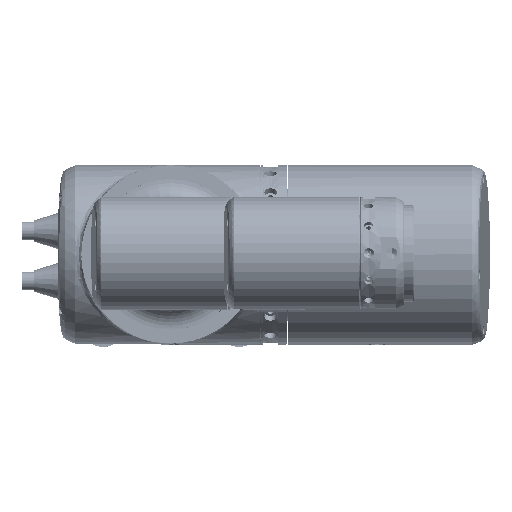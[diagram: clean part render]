
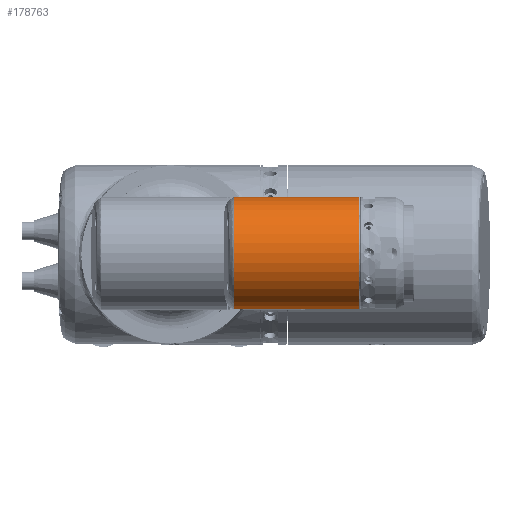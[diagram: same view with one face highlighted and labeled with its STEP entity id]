
A CAD part, top view. The second image highlights one B-rep face of the part: STEP entity #178763.
In plain terms, the highlighted cylindrical face has radius 36.5 mm (diameter 73 mm), a partial arc.
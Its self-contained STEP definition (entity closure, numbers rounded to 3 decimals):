
#23209 = CIRCLE ( 'NONE', #81764, 36.5 ) ;
#31151 = VECTOR ( 'NONE', #36614, 1000. ) ;
#36614 = DIRECTION ( 'NONE',  ( 0., 0., 1. ) ) ;
#42175 = CARTESIAN_POINT ( 'NONE',  ( -36.5, 0., 0. ) ) ;
#42738 = DIRECTION ( 'NONE',  ( 0., 0., 1. ) ) ;
#44493 = LINE ( 'NONE', #46733, #271030 ) ;
#46733 = CARTESIAN_POINT ( 'NONE',  ( 36.5, 0., -45. ) ) ;
#48553 = DIRECTION ( 'NONE',  ( 0., 0., 1. ) ) ;
#60079 = CIRCLE ( 'NONE', #432102, 36.5 ) ;
#61433 = DIRECTION ( 'NONE',  ( 1., 0., 0. ) ) ;
#63408 = ORIENTED_EDGE ( 'NONE', *, *, #363738, .F. ) ;
#74589 = CARTESIAN_POINT ( 'NONE',  ( 36.5, 0., 36.5 ) ) ;
#81764 = AXIS2_PLACEMENT_3D ( 'NONE', #186829, #424587, #248592 ) ;
#97615 = LINE ( 'NONE', #444667, #135641 ) ;
#99844 = EDGE_CURVE ( 'NONE', #317200, #156246, #60079, .T. ) ;
#100720 = EDGE_CURVE ( 'NONE', #293705, #280286, #164328, .T. ) ;
#101721 = ORIENTED_EDGE ( 'NONE', *, *, #305032, .F. ) ;
#117477 = CARTESIAN_POINT ( 'NONE',  ( 36.5, 0., 0. ) ) ;
#135641 = VECTOR ( 'NONE', #410458, 1000. ) ;
#142072 = CARTESIAN_POINT ( 'NONE',  ( -36.5, 0., 36.5 ) ) ;
#153969 = ORIENTED_EDGE ( 'NONE', *, *, #212267, .T. ) ;
#156246 = VERTEX_POINT ( 'NONE', #413797 ) ;
#164328 = LINE ( 'NONE', #292824, #447671 ) ;
#178763 = ADVANCED_FACE ( 'NONE', ( #312357 ), #205144, .T. ) ;
#181774 = CARTESIAN_POINT ( 'NONE',  ( 36.5, 0., -45. ) ) ;
#186829 = CARTESIAN_POINT ( 'NONE',  ( 0., 0., 36.5 ) ) ;
#191446 = VERTEX_POINT ( 'NONE', #117477 ) ;
#205144 = CYLINDRICAL_SURFACE ( 'NONE', #286468, 36.5 ) ;
#205815 = LINE ( 'NONE', #310792, #31151 ) ;
#212267 = EDGE_CURVE ( 'NONE', #156246, #293705, #97615, .T. ) ;
#227121 = DIRECTION ( 'NONE',  ( 0., 0., 1. ) ) ;
#248592 = DIRECTION ( 'NONE',  ( 1., 0., 0. ) ) ;
#271030 = VECTOR ( 'NONE', #227121, 1000. ) ;
#280286 = VERTEX_POINT ( 'NONE', #142072 ) ;
#283165 = VERTEX_POINT ( 'NONE', #74589 ) ;
#286468 = AXIS2_PLACEMENT_3D ( 'NONE', #293784, #42738, #355642 ) ;
#292824 = CARTESIAN_POINT ( 'NONE',  ( -36.5, 0., -45. ) ) ;
#293705 = VERTEX_POINT ( 'NONE', #42175 ) ;
#293784 = CARTESIAN_POINT ( 'NONE',  ( 0., 0., -45. ) ) ;
#300500 = ORIENTED_EDGE ( 'NONE', *, *, #99844, .T. ) ;
#305032 = EDGE_CURVE ( 'NONE', #191446, #283165, #44493, .T. ) ;
#305804 = CARTESIAN_POINT ( 'NONE',  ( 0., 0., -45. ) ) ;
#310792 = CARTESIAN_POINT ( 'NONE',  ( 36.5, 0., -45. ) ) ;
#312357 = FACE_OUTER_BOUND ( 'NONE', #339656, .T. ) ;
#313444 = ORIENTED_EDGE ( 'NONE', *, *, #100720, .T. ) ;
#317200 = VERTEX_POINT ( 'NONE', #181774 ) ;
#339656 = EDGE_LOOP ( 'NONE', ( #300500, #153969, #313444, #63408, #101721, #399196 ) ) ;
#355642 = DIRECTION ( 'NONE',  ( 1., 0., 0. ) ) ;
#363738 = EDGE_CURVE ( 'NONE', #283165, #280286, #23209, .T. ) ;
#369797 = DIRECTION ( 'NONE',  ( 0., 0., 1. ) ) ;
#399196 = ORIENTED_EDGE ( 'NONE', *, *, #409056, .F. ) ;
#409056 = EDGE_CURVE ( 'NONE', #317200, #191446, #205815, .T. ) ;
#410458 = DIRECTION ( 'NONE',  ( 0., 0., 1. ) ) ;
#413797 = CARTESIAN_POINT ( 'NONE',  ( -36.5, 0., -45. ) ) ;
#424587 = DIRECTION ( 'NONE',  ( 0., 0., 1. ) ) ;
#432102 = AXIS2_PLACEMENT_3D ( 'NONE', #305804, #369797, #61433 ) ;
#444667 = CARTESIAN_POINT ( 'NONE',  ( -36.5, 0., -45. ) ) ;
#447671 = VECTOR ( 'NONE', #48553, 1000. ) ;
